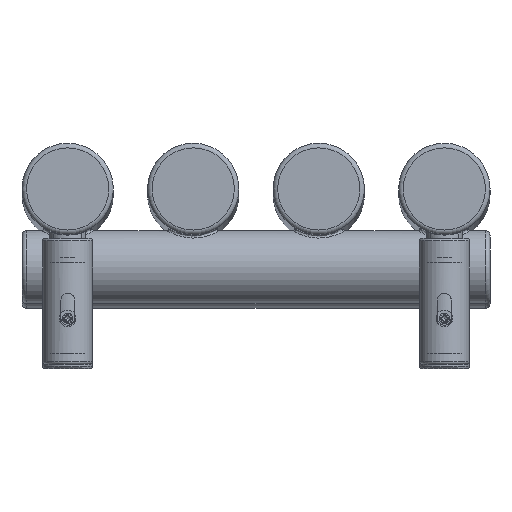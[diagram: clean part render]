
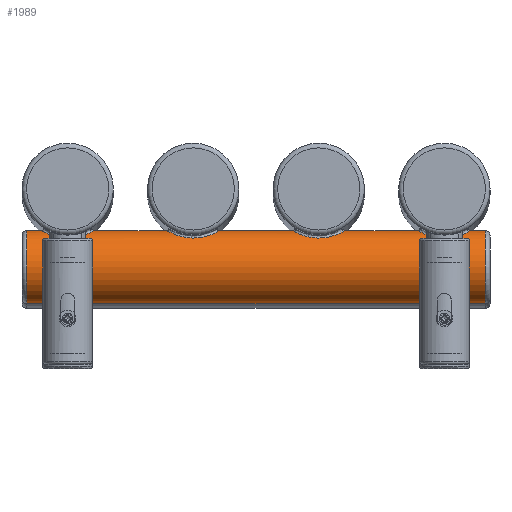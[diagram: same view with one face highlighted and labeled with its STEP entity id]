
A CAD part, top view. The second image highlights one B-rep face of the part: STEP entity #1989.
In plain terms, the highlighted cylindrical face has radius 16 mm (diameter 32 mm), a full revolution.
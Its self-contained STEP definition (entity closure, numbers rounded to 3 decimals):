
#170=FACE_BOUND('',#518,.T.);
#171=FACE_BOUND('',#519,.T.);
#172=FACE_BOUND('',#520,.T.);
#173=FACE_BOUND('',#521,.T.);
#193=LINE('',#4247,#266);
#266=VECTOR('',#2499,16.);
#339=CYLINDRICAL_SURFACE('',#2178,16.);
#374=FACE_OUTER_BOUND('',#517,.T.);
#517=EDGE_LOOP('',(#1425,#1426,#1427,#1428));
#518=EDGE_LOOP('',(#1429));
#519=EDGE_LOOP('',(#1430));
#520=EDGE_LOOP('',(#1431));
#521=EDGE_LOOP('',(#1432));
#668=B_SPLINE_CURVE_WITH_KNOTS('',3,(#4223,#4224,#4225,#4226,#4227,#4228,
#4229,#4230,#4231,#4232,#4233,#4234,#4235,#4236,#4237,#4238,#4239,#4240,
#4241,#4242),.UNSPECIFIED.,.T.,.F.,(4,1,1,1,1,1,1,1,1,1,1,1,1,1,1,1,1,4),
(0.,0.367,0.733,1.1,1.466,
1.711,1.955,2.199,2.444,2.933,
3.177,3.421,3.666,3.788,3.91,
4.399,4.765,5.132),.UNSPECIFIED.);
#669=B_SPLINE_CURVE_WITH_KNOTS('',3,(#4250,#4251,#4252,#4253,#4254,#4255,
#4256,#4257,#4258,#4259,#4260,#4261,#4262,#4263,#4264,#4265,#4266,#4267,
#4268,#4269),.UNSPECIFIED.,.T.,.F.,(4,1,1,1,1,1,1,1,1,1,1,1,1,1,1,1,1,4),
(0.,0.367,0.733,1.1,1.466,
1.711,1.955,2.199,2.444,2.933,
3.177,3.421,3.666,3.91,4.154,
4.399,4.765,5.132),.UNSPECIFIED.);
#670=B_SPLINE_CURVE_WITH_KNOTS('',3,(#4271,#4272,#4273,#4274,#4275,#4276,
#4277,#4278,#4279,#4280,#4281,#4282,#4283,#4284,#4285,#4286,#4287,#4288,
#4289,#4290,#4291),.UNSPECIFIED.,.T.,.F.,(4,1,1,1,1,1,1,1,1,1,1,1,1,1,1,
1,1,1,4),(0.,0.367,0.733,0.916,1.1,
1.466,1.711,1.955,2.199,2.444,
2.688,2.933,3.177,3.421,3.666,
3.91,4.399,4.765,5.132),
 .UNSPECIFIED.);
#671=B_SPLINE_CURVE_WITH_KNOTS('',3,(#4293,#4294,#4295,#4296,#4297,#4298,
#4299,#4300,#4301,#4302,#4303,#4304,#4305,#4306,#4307,#4308,#4309,#4310,
#4311,#4312,#4313),.UNSPECIFIED.,.T.,.F.,(4,1,1,1,1,1,1,1,1,1,1,1,1,1,1,
1,1,1,4),(0.,0.367,0.733,0.916,1.1,
1.466,1.711,1.955,2.199,2.444,
2.688,2.933,3.177,3.421,3.666,
3.91,4.399,4.765,5.132),
 .UNSPECIFIED.);
#724=CIRCLE('',#2179,16.);
#725=CIRCLE('',#2180,16.);
#886=VERTEX_POINT('',#4221);
#887=VERTEX_POINT('',#4244);
#888=VERTEX_POINT('',#4246);
#889=VERTEX_POINT('',#4249);
#890=VERTEX_POINT('',#4270);
#891=VERTEX_POINT('',#4292);
#1102=EDGE_CURVE('',#886,#886,#668,.T.);
#1103=EDGE_CURVE('',#887,#887,#724,.T.);
#1104=EDGE_CURVE('',#887,#888,#193,.T.);
#1105=EDGE_CURVE('',#888,#888,#725,.T.);
#1106=EDGE_CURVE('',#889,#889,#669,.T.);
#1107=EDGE_CURVE('',#890,#890,#670,.T.);
#1108=EDGE_CURVE('',#891,#891,#671,.T.);
#1425=ORIENTED_EDGE('',*,*,#1103,.F.);
#1426=ORIENTED_EDGE('',*,*,#1104,.T.);
#1427=ORIENTED_EDGE('',*,*,#1105,.F.);
#1428=ORIENTED_EDGE('',*,*,#1104,.F.);
#1429=ORIENTED_EDGE('',*,*,#1106,.F.);
#1430=ORIENTED_EDGE('',*,*,#1107,.F.);
#1431=ORIENTED_EDGE('',*,*,#1108,.F.);
#1432=ORIENTED_EDGE('',*,*,#1102,.F.);
#1989=ADVANCED_FACE('',(#374,#170,#171,#172,#173),#339,.T.);
#2178=AXIS2_PLACEMENT_3D('',#4243,#2495,#2496);
#2179=AXIS2_PLACEMENT_3D('',#4245,#2497,#2498);
#2180=AXIS2_PLACEMENT_3D('',#4248,#2500,#2501);
#2495=DIRECTION('center_axis',(-1.,0.,0.));
#2496=DIRECTION('ref_axis',(0.,0.,1.));
#2497=DIRECTION('center_axis',(-1.,0.,0.));
#2498=DIRECTION('ref_axis',(0.,0.,1.));
#2499=DIRECTION('',(1.,0.,0.));
#2500=DIRECTION('center_axis',(1.,0.,0.));
#2501=DIRECTION('ref_axis',(0.,0.,1.));
#4221=CARTESIAN_POINT('',(-165.,-21.257,1254.676));
#4223=CARTESIAN_POINT('Ctrl Pts',(-165.,-21.257,1254.676));
#4224=CARTESIAN_POINT('Ctrl Pts',(-163.333,-21.257,1254.676));
#4225=CARTESIAN_POINT('Ctrl Pts',(-159.996,-20.861,1254.184));
#4226=CARTESIAN_POINT('Ctrl Pts',(-155.827,-19.326,1251.733));
#4227=CARTESIAN_POINT('Ctrl Pts',(-153.534,-17.944,1247.49));
#4228=CARTESIAN_POINT('Ctrl Pts',(-153.54,-17.945,1243.066));
#4229=CARTESIAN_POINT('Ctrl Pts',(-155.013,-18.83,1239.662));
#4230=CARTESIAN_POINT('Ctrl Pts',(-157.203,-19.859,1237.416));
#4231=CARTESIAN_POINT('Ctrl Pts',(-160.073,-20.763,1235.975));
#4232=CARTESIAN_POINT('Ctrl Pts',(-164.399,-21.457,1235.075));
#4233=CARTESIAN_POINT('Ctrl Pts',(-168.971,-21.078,1235.504));
#4234=CARTESIAN_POINT('Ctrl Pts',(-172.8,-19.857,1237.414));
#4235=CARTESIAN_POINT('Ctrl Pts',(-174.987,-18.832,1239.665));
#4236=CARTESIAN_POINT('Ctrl Pts',(-176.042,-18.2,1242.097));
#4237=CARTESIAN_POINT('Ctrl Pts',(-176.377,-17.994,1244.199));
#4238=CARTESIAN_POINT('Ctrl Pts',(-176.387,-17.977,1247.416));
#4239=CARTESIAN_POINT('Ctrl Pts',(-174.642,-19.138,1251.466));
#4240=CARTESIAN_POINT('Ctrl Pts',(-170.,-20.87,1254.18));
#4241=CARTESIAN_POINT('Ctrl Pts',(-166.667,-21.257,1254.676));
#4242=CARTESIAN_POINT('Ctrl Pts',(-165.,-21.257,1254.676));
#4243=CARTESIAN_POINT('Origin',(20.,-34.,1245.));
#4244=CARTESIAN_POINT('',(-183.,-34.,1229.));
#4245=CARTESIAN_POINT('Origin',(-183.,-34.,1245.));
#4246=CARTESIAN_POINT('',(18.,-34.,1229.));
#4247=CARTESIAN_POINT('',(20.,-34.,1229.));
#4248=CARTESIAN_POINT('Origin',(18.,-34.,1245.));
#4249=CARTESIAN_POINT('',(-110.,-21.257,1254.676));
#4250=CARTESIAN_POINT('Ctrl Pts',(-110.,-21.257,1254.676));
#4251=CARTESIAN_POINT('Ctrl Pts',(-108.333,-21.257,1254.676));
#4252=CARTESIAN_POINT('Ctrl Pts',(-104.996,-20.861,1254.183));
#4253=CARTESIAN_POINT('Ctrl Pts',(-100.824,-19.321,1251.735));
#4254=CARTESIAN_POINT('Ctrl Pts',(-98.535,-17.944,1247.489));
#4255=CARTESIAN_POINT('Ctrl Pts',(-98.541,-17.95,1243.065));
#4256=CARTESIAN_POINT('Ctrl Pts',(-100.014,-18.832,1239.661));
#4257=CARTESIAN_POINT('Ctrl Pts',(-102.203,-19.862,1237.415));
#4258=CARTESIAN_POINT('Ctrl Pts',(-105.073,-20.765,1235.975));
#4259=CARTESIAN_POINT('Ctrl Pts',(-109.399,-21.459,1235.075));
#4260=CARTESIAN_POINT('Ctrl Pts',(-113.97,-21.08,1235.503));
#4261=CARTESIAN_POINT('Ctrl Pts',(-117.798,-19.859,1237.414));
#4262=CARTESIAN_POINT('Ctrl Pts',(-119.987,-18.833,1239.664));
#4263=CARTESIAN_POINT('Ctrl Pts',(-121.251,-18.078,1242.581));
#4264=CARTESIAN_POINT('Ctrl Pts',(-121.505,-17.912,1245.817));
#4265=CARTESIAN_POINT('Ctrl Pts',(-120.743,-18.396,1248.944));
#4266=CARTESIAN_POINT('Ctrl Pts',(-118.706,-19.497,1252.001));
#4267=CARTESIAN_POINT('Ctrl Pts',(-115.007,-20.859,1254.186));
#4268=CARTESIAN_POINT('Ctrl Pts',(-111.667,-21.257,1254.676));
#4269=CARTESIAN_POINT('Ctrl Pts',(-110.,-21.257,1254.676));
#4270=CARTESIAN_POINT('',(0.,-21.257,1254.676));
#4271=CARTESIAN_POINT('Ctrl Pts',(0.,-21.257,
1254.676));
#4272=CARTESIAN_POINT('Ctrl Pts',(1.667,-21.257,1254.676));
#4273=CARTESIAN_POINT('Ctrl Pts',(5.008,-20.858,1254.186));
#4274=CARTESIAN_POINT('Ctrl Pts',(8.474,-19.582,1252.138));
#4275=CARTESIAN_POINT('Ctrl Pts',(10.325,-18.63,1249.615));
#4276=CARTESIAN_POINT('Ctrl Pts',(11.461,-17.949,1246.659));
#4277=CARTESIAN_POINT('Ctrl Pts',(11.462,-17.947,1243.067));
#4278=CARTESIAN_POINT('Ctrl Pts',(9.987,-18.833,1239.662));
#4279=CARTESIAN_POINT('Ctrl Pts',(7.797,-19.86,1237.415));
#4280=CARTESIAN_POINT('Ctrl Pts',(4.928,-20.768,1235.978));
#4281=CARTESIAN_POINT('Ctrl Pts',(1.682,-21.278,1235.296));
#4282=CARTESIAN_POINT('Ctrl Pts',(-1.682,-21.279,1235.296));
#4283=CARTESIAN_POINT('Ctrl Pts',(-4.929,-20.768,1235.978));
#4284=CARTESIAN_POINT('Ctrl Pts',(-7.797,-19.862,1237.415));
#4285=CARTESIAN_POINT('Ctrl Pts',(-9.989,-18.829,1239.664));
#4286=CARTESIAN_POINT('Ctrl Pts',(-11.247,-18.084,1242.578));
#4287=CARTESIAN_POINT('Ctrl Pts',(-11.602,-17.835,1246.907));
#4288=CARTESIAN_POINT('Ctrl Pts',(-9.645,-19.134,1251.468));
#4289=CARTESIAN_POINT('Ctrl Pts',(-4.999,-20.872,1254.179));
#4290=CARTESIAN_POINT('Ctrl Pts',(-1.667,-21.257,1254.676));
#4291=CARTESIAN_POINT('Ctrl Pts',(0.,-21.257,
1254.676));
#4292=CARTESIAN_POINT('',(-55.,-21.257,1254.676));
#4293=CARTESIAN_POINT('Ctrl Pts',(-55.,-21.257,1254.676));
#4294=CARTESIAN_POINT('Ctrl Pts',(-53.333,-21.257,1254.676));
#4295=CARTESIAN_POINT('Ctrl Pts',(-49.992,-20.858,1254.186));
#4296=CARTESIAN_POINT('Ctrl Pts',(-46.526,-19.582,1252.138));
#4297=CARTESIAN_POINT('Ctrl Pts',(-44.675,-18.63,1249.615));
#4298=CARTESIAN_POINT('Ctrl Pts',(-43.539,-17.949,1246.659));
#4299=CARTESIAN_POINT('Ctrl Pts',(-43.538,-17.947,1243.067));
#4300=CARTESIAN_POINT('Ctrl Pts',(-45.013,-18.833,1239.662));
#4301=CARTESIAN_POINT('Ctrl Pts',(-47.203,-19.86,1237.415));
#4302=CARTESIAN_POINT('Ctrl Pts',(-50.072,-20.768,1235.978));
#4303=CARTESIAN_POINT('Ctrl Pts',(-53.318,-21.278,1235.296));
#4304=CARTESIAN_POINT('Ctrl Pts',(-56.682,-21.279,1235.296));
#4305=CARTESIAN_POINT('Ctrl Pts',(-59.929,-20.768,1235.978));
#4306=CARTESIAN_POINT('Ctrl Pts',(-62.797,-19.862,1237.416));
#4307=CARTESIAN_POINT('Ctrl Pts',(-64.989,-18.829,1239.664));
#4308=CARTESIAN_POINT('Ctrl Pts',(-66.247,-18.084,1242.578));
#4309=CARTESIAN_POINT('Ctrl Pts',(-66.602,-17.835,1246.907));
#4310=CARTESIAN_POINT('Ctrl Pts',(-64.645,-19.134,1251.468));
#4311=CARTESIAN_POINT('Ctrl Pts',(-59.999,-20.872,1254.179));
#4312=CARTESIAN_POINT('Ctrl Pts',(-56.667,-21.257,1254.676));
#4313=CARTESIAN_POINT('Ctrl Pts',(-55.,-21.257,1254.676));
